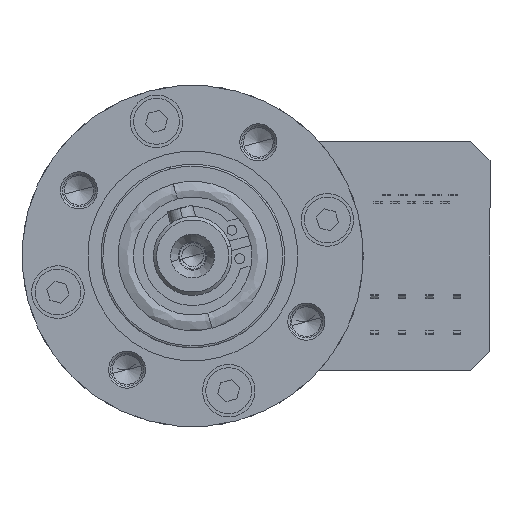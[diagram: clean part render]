
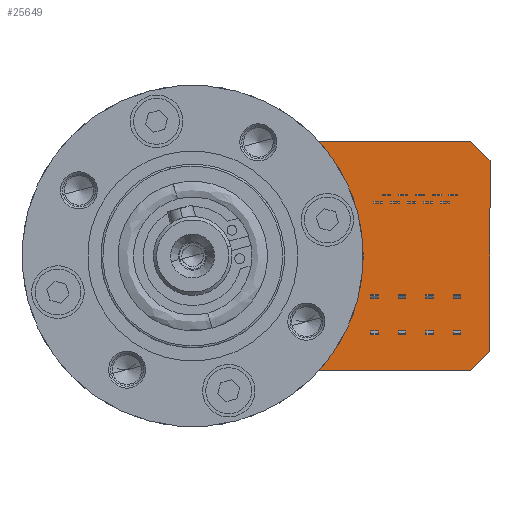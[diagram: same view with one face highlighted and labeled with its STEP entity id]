
A CAD part, left-side view. The second image highlights one B-rep face of the part: STEP entity #25649.
In plain terms, the highlighted planar face has unit normal (-1, 0, 0).
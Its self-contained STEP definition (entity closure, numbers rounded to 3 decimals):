
#247 = CIRCLE ( 'NONE', #528, 22. ) ;
#528 = AXIS2_PLACEMENT_3D ( 'NONE', #24290, #7976, #27068 ) ;
#1113 = CARTESIAN_POINT ( 'NONE',  ( 4., 0., 0. ) ) ;
#1323 = VECTOR ( 'NONE', #12316, 1000. ) ;
#1509 = EDGE_CURVE ( 'NONE', #12684, #17083, #24778, .T. ) ;
#3086 = CARTESIAN_POINT ( 'NONE',  ( 4., -45.3, 14.5 ) ) ;
#3911 = CARTESIAN_POINT ( 'NONE',  ( 4., -13.332, -17.5 ) ) ;
#4320 = VERTEX_POINT ( 'NONE', #28410 ) ;
#4381 = EDGE_CURVE ( 'NONE', #23167, #12866, #14486, .T. ) ;
#5026 = ORIENTED_EDGE ( 'NONE', *, *, #4381, .F. ) ;
#5924 = VECTOR ( 'NONE', #30089, 1000. ) ;
#6278 = EDGE_LOOP ( 'NONE', ( #13991, #8777, #5026, #26999, #14212, #32806 ) ) ;
#6597 = DIRECTION ( 'NONE',  ( 0., 0., -1. ) ) ;
#7277 = VECTOR ( 'NONE', #23270, 1000. ) ;
#7976 = DIRECTION ( 'NONE',  ( -1., 0., 0. ) ) ;
#8285 = CARTESIAN_POINT ( 'NONE',  ( 4., -11.426, 17.5 ) ) ;
#8669 = VECTOR ( 'NONE', #31044, 1000. ) ;
#8777 = ORIENTED_EDGE ( 'NONE', *, *, #33219, .F. ) ;
#9834 = VERTEX_POINT ( 'NONE', #16508 ) ;
#10180 = FACE_OUTER_BOUND ( 'NONE', #6278, .T. ) ;
#11057 = EDGE_CURVE ( 'NONE', #9834, #12684, #30400, .T. ) ;
#12316 = DIRECTION ( 'NONE',  ( 0., 0., -1. ) ) ;
#12409 = DIRECTION ( 'NONE',  ( 0., 0.707, -0.707 ) ) ;
#12684 = VERTEX_POINT ( 'NONE', #3086 ) ;
#12866 = VERTEX_POINT ( 'NONE', #3911 ) ;
#13130 = LINE ( 'NONE', #8285, #5924 ) ;
#13991 = ORIENTED_EDGE ( 'NONE', *, *, #31971, .F. ) ;
#14212 = ORIENTED_EDGE ( 'NONE', *, *, #1509, .F. ) ;
#14486 = LINE ( 'NONE', #20509, #7277 ) ;
#14678 = CARTESIAN_POINT ( 'NONE',  ( 4., -42.3, 17.5 ) ) ;
#15222 = AXIS2_PLACEMENT_3D ( 'NONE', #1113, #22922, #6597 ) ;
#16508 = CARTESIAN_POINT ( 'NONE',  ( 4., -42.3, 17.5 ) ) ;
#17083 = VERTEX_POINT ( 'NONE', #31828 ) ;
#17418 = PLANE ( 'NONE',  #15222 ) ;
#17472 = LINE ( 'NONE', #26046, #23046 ) ;
#17693 = CARTESIAN_POINT ( 'NONE',  ( 4., -45.3, 14.5 ) ) ;
#20509 = CARTESIAN_POINT ( 'NONE',  ( 4., -11.426, -17.5 ) ) ;
#22922 = DIRECTION ( 'NONE',  ( 1., 0., 0. ) ) ;
#23046 = VECTOR ( 'NONE', #12409, 1000. ) ;
#23167 = VERTEX_POINT ( 'NONE', #28442 ) ;
#23270 = DIRECTION ( 'NONE',  ( 0., 1., 0. ) ) ;
#24290 = CARTESIAN_POINT ( 'NONE',  ( 4., 0., 0. ) ) ;
#24778 = LINE ( 'NONE', #17693, #1323 ) ;
#25226 = EDGE_CURVE ( 'NONE', #17083, #23167, #17472, .T. ) ;
#25649 = ADVANCED_FACE ( 'NONE', ( #10180 ), #17418, .F. ) ;
#26046 = CARTESIAN_POINT ( 'NONE',  ( 4., -42.3, -17.5 ) ) ;
#26999 = ORIENTED_EDGE ( 'NONE', *, *, #25226, .F. ) ;
#27068 = DIRECTION ( 'NONE',  ( 0., 0., 1. ) ) ;
#28410 = CARTESIAN_POINT ( 'NONE',  ( 4., -13.332, 17.5 ) ) ;
#28442 = CARTESIAN_POINT ( 'NONE',  ( 4., -42.3, -17.5 ) ) ;
#30089 = DIRECTION ( 'NONE',  ( 0., -1., 0. ) ) ;
#30400 = LINE ( 'NONE', #14678, #8669 ) ;
#31044 = DIRECTION ( 'NONE',  ( 0., -0.707, -0.707 ) ) ;
#31828 = CARTESIAN_POINT ( 'NONE',  ( 4., -45.3, -14.5 ) ) ;
#31971 = EDGE_CURVE ( 'NONE', #4320, #9834, #13130, .T. ) ;
#32806 = ORIENTED_EDGE ( 'NONE', *, *, #11057, .F. ) ;
#33219 = EDGE_CURVE ( 'NONE', #12866, #4320, #247, .T. ) ;
